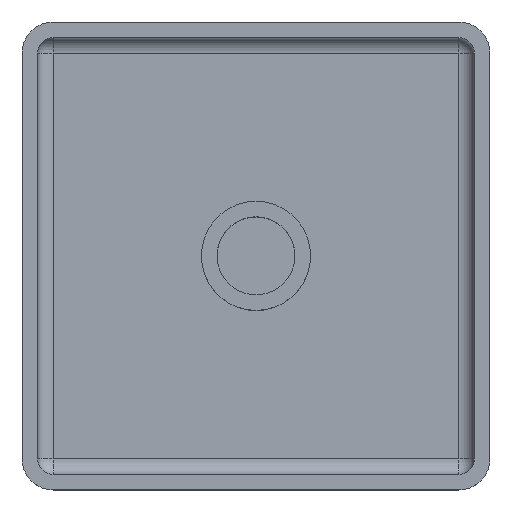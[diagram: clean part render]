
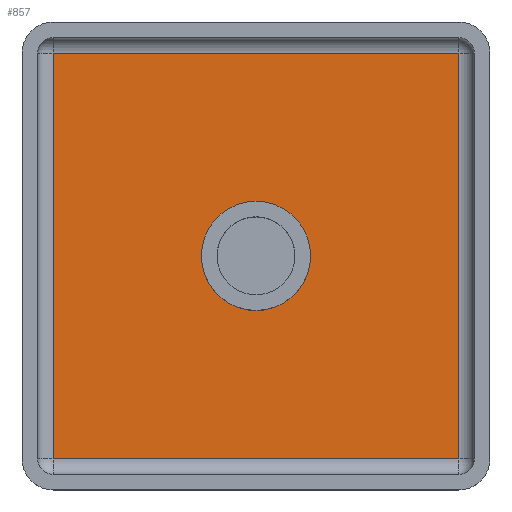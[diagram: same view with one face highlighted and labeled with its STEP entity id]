
A CAD part, top view. The second image highlights one B-rep face of the part: STEP entity #857.
In plain terms, the highlighted planar face has unit normal (0, 0, 1).
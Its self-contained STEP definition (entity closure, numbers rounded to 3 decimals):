
#127 = EDGE_CURVE ( 'NONE', #784, #587, #1087, .T. ) ;
#180 = FACE_OUTER_BOUND ( 'NONE', #1025, .T. ) ;
#192 = VECTOR ( 'NONE', #531, 1000. ) ;
#217 = EDGE_CURVE ( 'NONE', #1131, #1079, #893, .T. ) ;
#235 = VERTEX_POINT ( 'NONE', #393 ) ;
#261 = VECTOR ( 'NONE', #859, 1000. ) ;
#277 = EDGE_LOOP ( 'NONE', ( #553, #1016 ) ) ;
#343 = AXIS2_PLACEMENT_3D ( 'NONE', #844, #731, #619 ) ;
#362 = AXIS2_PLACEMENT_3D ( 'NONE', #1117, #998, #884 ) ;
#393 = CARTESIAN_POINT ( 'NONE',  ( -13., 13., -1. ) ) ;
#415 = CARTESIAN_POINT ( 'NONE',  ( 13., 13., -1. ) ) ;
#426 = DIRECTION ( 'NONE',  ( 0., 1., 0. ) ) ;
#443 = PLANE ( 'NONE',  #738 ) ;
#445 = FACE_BOUND ( 'NONE', #277, .T. ) ;
#454 = CIRCLE ( 'NONE', #343, 3.5 ) ;
#484 = CARTESIAN_POINT ( 'NONE',  ( 13., -13., -1. ) ) ;
#494 = VERTEX_POINT ( 'NONE', #711 ) ;
#531 = DIRECTION ( 'NONE',  ( 1., 0., 0. ) ) ;
#543 = CARTESIAN_POINT ( 'NONE',  ( -13., 0., -1. ) ) ;
#553 = ORIENTED_EDGE ( 'NONE', *, *, #217, .F. ) ;
#559 = EDGE_CURVE ( 'NONE', #494, #235, #659, .T. ) ;
#568 = EDGE_CURVE ( 'NONE', #587, #494, #1094, .T. ) ;
#573 = CARTESIAN_POINT ( 'NONE',  ( 3.5, 0., -1. ) ) ;
#587 = VERTEX_POINT ( 'NONE', #484 ) ;
#607 = CARTESIAN_POINT ( 'NONE',  ( -3.5, 0., -1. ) ) ;
#617 = ORIENTED_EDGE ( 'NONE', *, *, #568, .F. ) ;
#619 = DIRECTION ( 'NONE',  ( 1., 0., 0. ) ) ;
#648 = CARTESIAN_POINT ( 'NONE',  ( 0., 13., -1. ) ) ;
#659 = LINE ( 'NONE', #543, #1000 ) ;
#711 = CARTESIAN_POINT ( 'NONE',  ( -13., -13., -1. ) ) ;
#729 = ORIENTED_EDGE ( 'NONE', *, *, #559, .F. ) ;
#731 = DIRECTION ( 'NONE',  ( 0., 0., 1. ) ) ;
#738 = AXIS2_PLACEMENT_3D ( 'NONE', #1112, #993, #880 ) ;
#760 = LINE ( 'NONE', #648, #192 ) ;
#761 = VECTOR ( 'NONE', #848, 1000. ) ;
#771 = EDGE_CURVE ( 'NONE', #235, #784, #760, .T. ) ;
#784 = VERTEX_POINT ( 'NONE', #415 ) ;
#816 = EDGE_CURVE ( 'NONE', #1079, #1131, #454, .T. ) ;
#844 = CARTESIAN_POINT ( 'NONE',  ( 0., 0., -1. ) ) ;
#848 = DIRECTION ( 'NONE',  ( 0., -1., 0. ) ) ;
#857 = ADVANCED_FACE ( 'NONE', ( #180, #445 ), #443, .T. ) ;
#859 = DIRECTION ( 'NONE',  ( -1., 0., 0. ) ) ;
#873 = ORIENTED_EDGE ( 'NONE', *, *, #127, .F. ) ;
#880 = DIRECTION ( 'NONE',  ( 1., 0., 0. ) ) ;
#884 = DIRECTION ( 'NONE',  ( 1., 0., 0. ) ) ;
#893 = CIRCLE ( 'NONE', #362, 3.5 ) ;
#908 = ORIENTED_EDGE ( 'NONE', *, *, #771, .F. ) ;
#966 = CARTESIAN_POINT ( 'NONE',  ( 13., 0., -1. ) ) ;
#974 = CARTESIAN_POINT ( 'NONE',  ( 0., -13., -1. ) ) ;
#993 = DIRECTION ( 'NONE',  ( 0., 0., 1. ) ) ;
#998 = DIRECTION ( 'NONE',  ( 0., 0., 1. ) ) ;
#1000 = VECTOR ( 'NONE', #426, 1000. ) ;
#1016 = ORIENTED_EDGE ( 'NONE', *, *, #816, .F. ) ;
#1025 = EDGE_LOOP ( 'NONE', ( #729, #617, #873, #908 ) ) ;
#1079 = VERTEX_POINT ( 'NONE', #573 ) ;
#1087 = LINE ( 'NONE', #966, #761 ) ;
#1094 = LINE ( 'NONE', #974, #261 ) ;
#1112 = CARTESIAN_POINT ( 'NONE',  ( 0., 0., -1. ) ) ;
#1117 = CARTESIAN_POINT ( 'NONE',  ( 0., 0., -1. ) ) ;
#1131 = VERTEX_POINT ( 'NONE', #607 ) ;
